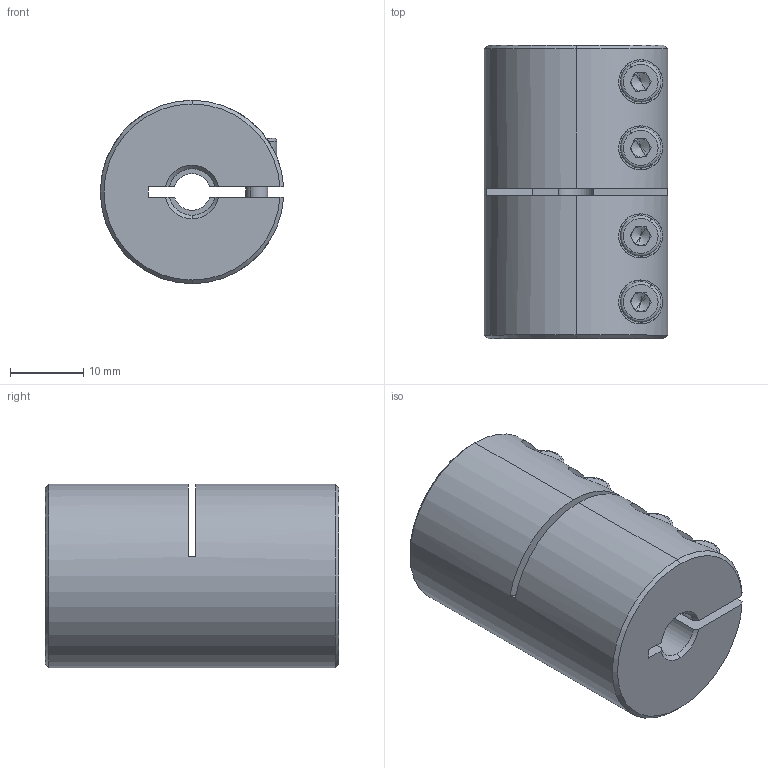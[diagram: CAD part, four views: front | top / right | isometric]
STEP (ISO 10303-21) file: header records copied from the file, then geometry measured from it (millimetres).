
FILE_DESCRIPTION (( 'STEP AP214' ), '1' );
FILE_NAME ('LL-B-D25L40-5-6.35½¨Ä£.STEP', '2022-07-21T05:02:40', ( '' ), ( '' ), 'SwSTEP 2.0', 'SolidWorks 2022', '' );
FILE_SCHEMA (( 'AUTOMOTIVE_DESIGN' ));
Length unit declared in the file: millimetre
Products named in the file (1): LL-B-D25L40-5-6.35膘耀
Bounding box: 24.98 x 40 x 25 mm (x, y, z)
Volume: 17313.6 mm3; surface area: 7082.1 mm2
Topology: 1 solids, 1 shells, 178 faces, 455 edges, 287 vertices
Faces by surface type: plane 85, cylinder 65, cone 20, torus 8
Entity records: 5838 total; most frequent: CARTESIAN_POINT 1437, DIRECTION 946, ORIENTED_EDGE 894, EDGE_CURVE 447, AXIS2_PLACEMENT_3D 364, VERTEX_POINT 287, VECTOR 218, LINE 218
